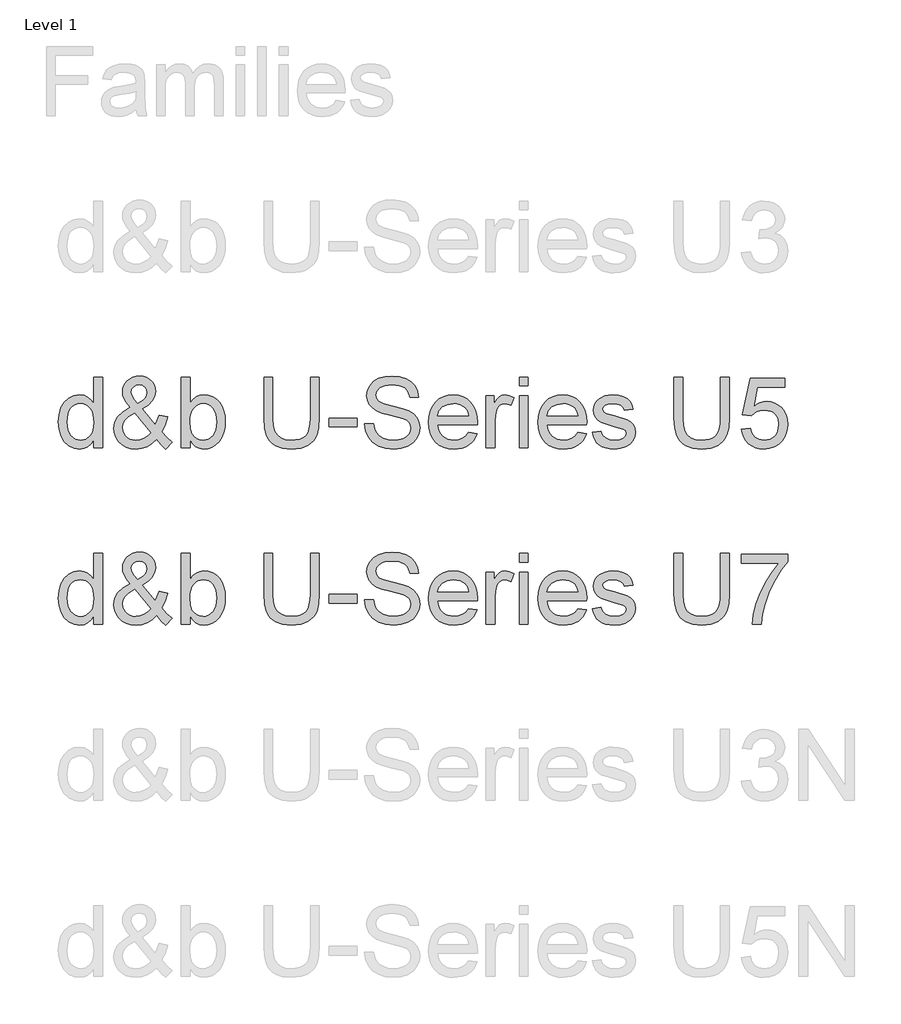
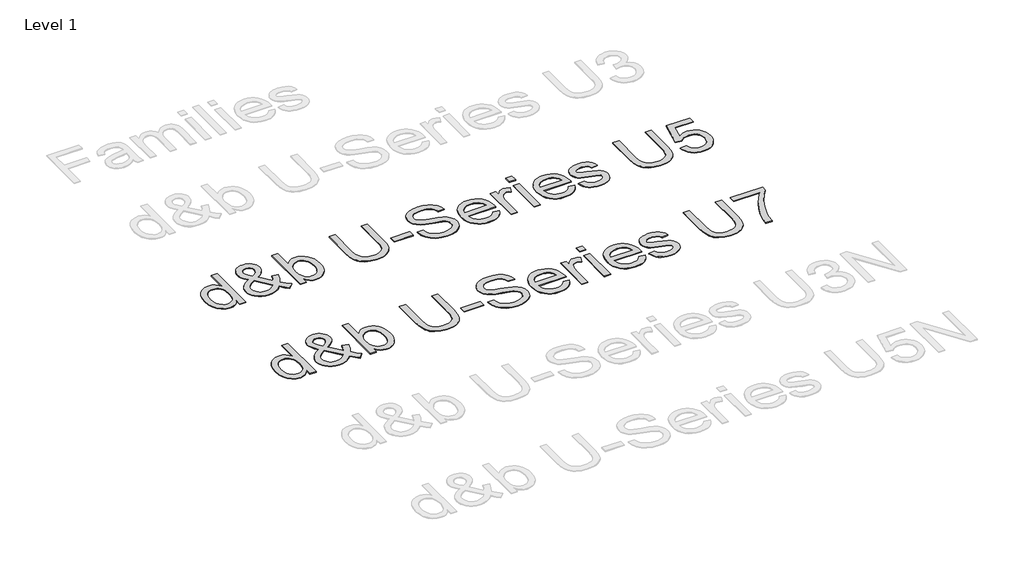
# One storey, part 23 of 29: 2 proxies.
"""IFC4 building model written with IfcOpenShell, lengths in millimetres."""

from ifc_helpers import new_model, si_unit, origin, origin_with_axes, place, context, project, spatial, polyline, outline, extrude, element, save

model = new_model("IFC4")

# Units and contexts
model_context = context("Model", 3, world=origin())
ifc_project = project(units=[si_unit("LENGTHUNIT", "METRE", prefix="MILLI")], contexts=[model_context])

# Site, building, storey
site = spatial("IfcSite", under=ifc_project)
building = spatial("IfcBuilding", under=site)
storey = spatial("IfcBuildingStorey", under=building, Name="Level 1", Elevation=0.0)

# Proxies
placement = place(None, origin())
element("IfcBuildingElementProxy", 1, Name="400mm Arial", ObjectType="400mm Arial", at=placement, inside=storey, context=model_context, shape_type="SweptSolid", body=[
    extrude(outline(polyline([(-20788.4119982, 15464.3636615), (-20788.4119982, 15511.7468625), (-20803.4399777, 15488.2698598), (-20821.6440051, 15471.5005722), (-20843.0240804, 15461.4389996), (-20867.5802036, 15458.0851421), (-20900.051921, 15462.9411844), (-20929.7767862, 15477.5093115), (-20954.9399147, 15500.7717163), (-20973.7264219, 15531.7105921), (-20985.4250694, 15569.0751401), (-20989.3246185, 15611.6145614), (-20985.7316377, 15653.6266853), (-20974.9526952, 15691.5675817), (-20957.0000539, 15723.2790097), (-20931.8859763, 15746.6027282), (-20901.5111863, 15760.950126), (-20867.7764073, 15765.7325919), (-20843.20189, 15762.3112894), (-20821.4723268, 15752.0473817), (-20803.0537016, 15736.3142951), (-20788.4119982, 15716.4854555), (-20788.4119982, 15866.1889021), (-20738.1838431, 15866.1889021), (-20738.1838431, 15464.3636615), (-20788.4119982, 15464.3636615)]), holes=[polyline([(-20939.0964634, 15611.8107652), (-20937.6801177, 15587.4539114), (-20933.4310807, 15566.3773388), (-20926.3493523, 15548.5810472), (-20916.4349325, 15534.0650368), (-20891.7377879, 15514.7512321), (-20877.8625053, 15509.9227809), (-20862.9694159, 15508.3132972), (-20848.0058157, 15509.8492045), (-20834.2133066, 15514.4569265), (-20810.1415614, 15532.8878145), (-20800.6348775, 15546.7968196), (-20793.844389, 15563.9493176), (-20788.4119982, 15607.9847924), (-20793.9424909, 15656.1282828), (-20800.8556067, 15674.663404), (-20810.5339688, 15689.5074425), (-20822.235682, 15700.8811276), (-20835.2188507, 15709.0051883), (-20849.4834751, 15713.8796247), (-20865.0295551, 15715.5044369), (-20880.2169501, 15713.9440041), (-20894.0922327, 15709.2627057), (-20906.6554028, 15701.4605417), (-20917.9064605, 15690.5375121), (-20927.1770868, 15676.2544937), (-20933.7989627, 15658.372363), (-20939.0964634, 15611.8107652)])]), origin_with_axes(), (0.0, 0.0, 1.0), 5.0),
    extrude(outline(polyline([(-20432.4003287, 15514.0032054), (-20457.9313392, 15489.5390527), (-20485.6696416, 15472.0646579), (-20515.664287, 15461.5800211), (-20547.9643262, 15458.0851421), (-20577.2722584, 15460.6725788), (-20603.3918801, 15468.4348889), (-20626.3231911, 15481.3720724), (-20646.0661915, 15499.4841293), (-20658.8991418, 15516.8542908), (-20668.0655348, 15535.2177338), (-20673.5653707, 15554.5744581), (-20675.3986493, 15574.9244638), (-20669.5002746, 15610.118508), (-20651.8051507, 15641.7318341), (-20622.3868538, 15669.7399167), (-20581.3189604, 15694.1182302), (-20603.2324646, 15722.4696693), (-20616.3903773, 15744.9349965), (-20622.975465, 15764.1139112), (-20625.1704942, 15782.6061128), (-20623.4414488, 15800.1602153), (-20618.2543127, 15816.5248327), (-20609.6090858, 15831.699965), (-20597.5057682, 15845.6856122), (-20582.784357, 15857.4026538), (-20566.2848495, 15865.7719692), (-20548.0072457, 15870.7935584), (-20527.9515456, 15872.4674215), (-20508.8032878, 15870.8671348), (-20491.4821772, 15866.0662748), (-20475.9882138, 15858.0648414), (-20462.3213977, 15846.8628346), (-20451.1623105, 15833.4167477), (-20443.1915339, 15818.6830738), (-20438.409068, 15802.6618129), (-20436.8149127, 15785.352965), (-20441.5360649, 15757.3694079), (-20455.6995218, 15731.4950409), (-20479.3052831, 15707.729864), (-20512.353349, 15686.0738773), (-20439.6598668, 15595.5258555), (-20427.2745063, 15621.4002225), (-20417.9793545, 15651.1496132), (-20367.7511994, 15640.2603061), (-20383.2022432, 15593.7354965), (-20403.2640747, 15557.5604336), (-20374.7164319, 15524.2548503), (-20342.6371219, 15496.7372771), (-20380.3082382, 15458.0851421), (-20405.9373505, 15481.5314879), (-20432.4003287, 15514.0032054)]), holes=[polyline([(-20537.7617322, 15717.7607798), (-20511.4949577, 15734.4258341), (-20496.4608468, 15748.908122), (-20489.3975125, 15762.9980024), (-20487.0430678, 15778.4858344), (-20490.1455392, 15796.0338056), (-20499.4529537, 15810.0255842), (-20513.4202068, 15819.1858458), (-20530.5021941, 15822.2392664), (-20547.9520634, 15819.2103713), (-20562.2381476, 15810.123686), (-20571.7662912, 15796.6714677), (-20574.9423391, 15780.5459736), (-20570.6258571, 15762.1518739), (-20557.578309, 15741.6976349), (-20537.7617322, 15717.7607798)]), polyline([(-20466.0492686, 15550.2027937), (-20555.7143735, 15662.1370221), (-20589.9641873, 15640.2848316), (-20610.8966728, 15620.0513218), (-20621.6020389, 15600.7252544), (-20625.1704942, 15581.5953906), (-20620.2899264, 15557.9037901), (-20605.648223, 15533.3292729), (-20594.8692805, 15522.3847835), (-20582.0547244, 15514.5672911), (-20567.2045545, 15509.8767957), (-20550.3187709, 15508.3132972), (-20527.5959264, 15511.2318277), (-20504.1618433, 15519.9874192), (-20482.7388484, 15533.3783238), (-20466.0492686, 15550.2027937)])]), origin_with_axes(), (0.0, 0.0, 1.0), 5.0),
    extrude(outline(polyline([(-20242.1808118, 15464.3636615), (-20292.4089668, 15464.3636615), (-20292.4089668, 15866.1889021), (-20242.1808118, 15866.1889021), (-20242.1808118, 15717.1721686), (-20225.6629102, 15738.4173538), (-20207.011293, 15753.5924861), (-20186.2259603, 15762.6975655), (-20163.306912, 15765.7325919), (-20137.432545, 15762.9980024), (-20112.9806551, 15754.7942339), (-20091.3491937, 15741.6363213), (-20073.9361126, 15724.0392992), (-20060.2876906, 15702.1748459), (-20049.9502065, 15676.2146398), (-20043.4386952, 15647.2378013), (-20041.2681915, 15616.323451), (-20043.5153373, 15580.6511602), (-20050.2567749, 15549.270826), (-20061.4925041, 15522.1824484), (-20077.2225251, 15499.3860274), (-20096.1040685, 15481.3168901), (-20116.7943651, 15468.4103634), (-20139.2934148, 15460.6664474), (-20163.6012176, 15458.0851421), (-20187.274424, 15461.4144742), (-20208.2620918, 15471.4024703), (-20226.5642211, 15488.0491306), (-20242.1808118, 15511.354455), (-20242.1808118, 15464.3636615)]), holes=[polyline([(-20242.1808118, 15613.9690062), (-20238.7472465, 15572.0795097), (-20228.4465506, 15543.7280706), (-20216.2757879, 15528.2341072), (-20202.1307252, 15517.1669905), (-20186.0113625, 15510.5267205), (-20167.9176997, 15508.3132972), (-20152.8958515, 15509.9442407), (-20138.9285984, 15514.8370712), (-20126.0159404, 15522.9917888), (-20114.1578774, 15534.4083934), (-20104.2434577, 15549.0562281), (-20097.1617293, 15566.9046363), (-20092.9126922, 15587.9536178), (-20091.4963465, 15612.2031726), (-20096.9287373, 15658.1638965), (-20103.7192258, 15675.9571224), (-20113.2259097, 15690.2922575), (-20124.6578427, 15701.322586), (-20137.2240785, 15709.201392), (-20150.9246172, 15713.9286757), (-20165.7594586, 15715.5044369), (-20180.7813068, 15713.8734934), (-20194.7485599, 15708.9806628), (-20207.6612179, 15700.8259453), (-20219.5192809, 15689.4093407), (-20229.4337006, 15674.9086587), (-20236.515429, 15657.501709), (-20240.7644661, 15637.1884915), (-20242.1808118, 15613.9690062)])]), origin_with_axes(), (0.0, 0.0, 1.0), 5.0),
    extrude(outline(polyline([(-19557.8221989, 15866.1889021), (-19507.5940438, 15866.1889021), (-19507.5940438, 15634.3741942), (-19511.0030836, 15580.0870744), (-19521.2302031, 15538.2834171), (-19529.4155775, 15521.3301884), (-19540.3355414, 15506.0324288), (-19570.3792376, 15480.4033165), (-19589.5213641, 15470.6391152), (-19611.4348683, 15463.6646857), (-19663.5760097, 15458.0851421), (-19714.576717, 15462.9411844), (-19755.3503048, 15477.5093115), (-19771.9049946, 15488.3097137), (-19785.9090359, 15501.2867511), (-19797.3624287, 15516.4404236), (-19806.2651729, 15533.7707312), (-19817.706303, 15577.3402222), (-19821.520013, 15634.3741942), (-19821.520013, 15866.1889021), (-19771.2918579, 15866.1889021), (-19771.2918579, 15636.1400278), (-19768.8147858, 15591.000907), (-19761.3835695, 15559.5715218), (-19747.9190885, 15537.8051705), (-19727.3422222, 15521.6551509), (-19700.5113621, 15511.6487606), (-19668.2848993, 15508.3132972), (-19640.6017791, 15509.9626348), (-19617.1983529, 15514.9106476), (-19598.0746205, 15523.1573357), (-19583.230582, 15534.702699), (-19572.1144144, 15550.9385577), (-19564.1742947, 15573.2567321), (-19559.4102228, 15601.6572221), (-19557.8221989, 15636.1400278), (-19557.8221989, 15866.1889021)])), origin_with_axes(), (0.0, 0.0, 1.0), 5.0),
    extrude(outline(polyline([(-19451.0873693, 15583.6555298), (-19451.0873693, 15633.8836849), (-19294.1243847, 15633.8836849), (-19294.1243847, 15583.6555298), (-19451.0873693, 15583.6555298)])), origin_with_axes(), (0.0, 0.0, 1.0), 5.0),
    extrude(outline(polyline([(-19250.174749, 15602.4910879), (-19199.946594, 15602.4910879), (-19194.1831094, 15574.6178954), (-19183.7597862, 15552.2138819), (-19167.499402, 15534.4329188), (-19144.2247344, 15520.4288776), (-19115.7751935, 15511.3421923), (-19083.9901891, 15508.3132972), (-19056.006632, 15510.6064283), (-19031.5056911, 15517.4858216), (-19011.6523261, 15528.3751287), (-18997.6114966, 15542.698001), (-18989.2605753, 15559.1423262), (-18986.4769349, 15576.3959918), (-18988.5615995, 15593.2081989), (-18994.8155934, 15607.7395377), (-19007.519785, 15620.137161), (-19028.9550426, 15630.5482214), (-19102.0899832, 15649.7271361), (-19150.0985836, 15662.419065), (-19180.8167302, 15674.4978571), (-19205.8204431, 15691.3959034), (-19223.5400926, 15711.8746678), (-19234.0983058, 15735.4926919), (-19237.6177103, 15761.8085173), (-19233.26444, 15791.2268142), (-19220.2046292, 15818.6585483), (-19198.7816343, 15841.9086904), (-19169.338812, 15858.7822113), (-19133.997615, 15869.0461189), (-19094.8794961, 15872.4674215), (-19052.4994903, 15868.8867034), (-19015.4169852, 15858.1445491), (-18984.956356, 15840.4616879), (-18962.4419779, 15816.0588489), (-18948.1926819, 15786.456611), (-18942.5272992, 15753.1755532), (-18992.7554543, 15753.1755532), (-19001.9770296, 15783.145673), (-19010.3402136, 15795.003736), (-19021.2049952, 15804.7771344), (-19051.2486915, 15817.8737334), (-19092.9174588, 15822.2392664), (-19135.5672448, 15817.9227843), (-19151.8705486, 15812.5271817), (-19164.8261262, 15804.9733381), (-19181.7486979, 15785.9170507), (-19187.3895552, 15763.2800453), (-19183.3919042, 15743.9785033), (-19171.3989511, 15728.4538831), (-19143.047512, 15714.5724691), (-19089.3857917, 15700.3967496), (-19034.0072887, 15686.9322686), (-19000.5055016, 15675.1845702), (-18971.8720197, 15656.9621487), (-18951.8960273, 15634.4722961), (-18940.1605917, 15607.9602669), (-18936.2487798, 15577.671316), (-18940.7492029, 15546.7079147), (-18954.2504721, 15517.5839235), (-18976.2007645, 15492.5188969), (-19006.048257, 15473.7323896), (-19041.941277, 15461.996954), (-19082.0281518, 15458.0851421), (-19131.2385, 15462.3035223), (-19171.7423077, 15474.958663), (-19204.0055586, 15496.0996149), (-19228.4942368, 15525.7754292), (-19244.2150607, 15561.9259666), (-19250.174749, 15602.4910879)])), origin_with_axes(), (0.0, 0.0, 1.0), 5.0),
    extrude(outline(polyline([(-18660.5825381, 15552.2629329), (-18611.3354017, 15545.9844135), (-18618.8861796, 15526.2598072), (-18629.0795766, 15508.8773829), (-18641.9155925, 15493.8371407), (-18657.3942275, 15481.1390805), (-18675.3560659, 15471.0529824), (-18695.6416922, 15463.8486267), (-18743.1843087, 15458.0851421), (-18774.3500451, 15460.5714113), (-18802.1190044, 15468.0302187), (-18826.4911866, 15480.4615645), (-18847.4665916, 15497.8654485), (-18864.3339811, 15519.7574929), (-18876.3821165, 15545.6533197), (-18883.6109977, 15575.5529288), (-18886.0206247, 15609.4563204), (-18883.5864722, 15644.5093432), (-18876.2840146, 15675.4052994), (-18864.1132519, 15702.1441891), (-18847.0741842, 15724.7260122), (-18826.1539614, 15742.6663908), (-18802.3397336, 15755.480947), (-18775.6315007, 15763.1696807), (-18746.0292628, 15765.7325919), (-18717.3804525, 15763.1758121), (-18691.472363, 15755.5054725), (-18668.3049943, 15742.7215731), (-18647.8783465, 15724.8241141), (-18631.2040951, 15702.2913419), (-18619.2939155, 15675.6015031), (-18612.1478077, 15644.7545978), (-18609.7657718, 15609.750626), (-18610.0600774, 15596.2125686), (-18835.7924697, 15596.2125686), (-18832.8831362, 15576.1691312), (-18827.0981918, 15558.6150287), (-18818.4376365, 15543.550261), (-18806.9014703, 15530.9748281), (-18793.1273553, 15521.0604083), (-18777.7529536, 15513.9786799), (-18742.2032901, 15508.3132972), (-18715.4705318, 15510.9375221), (-18692.9561537, 15518.8101968), (-18674.6601558, 15532.4218306), (-18660.5825381, 15552.2629329)]), holes=[polyline([(-18835.7924697, 15646.4407236), (-18659.9939269, 15646.4407236), (-18666.7874811, 15672.9772782), (-18680.1048093, 15691.9599892), (-18693.8022823, 15702.260685), (-18709.3882161, 15709.6183249), (-18726.8626109, 15714.0329089), (-18746.2254666, 15715.5044369), (-18780.0828729, 15710.8078101), (-18808.0786927, 15696.7179296), (-18827.5396502, 15674.7553745), (-18835.7924697, 15646.4407236)])]), origin_with_axes(), (0.0, 0.0, 1.0), 5.0),
    extrude(outline(polyline([(-18559.5376168, 15464.3636615), (-18559.5376168, 15759.4540726), (-18515.5879811, 15759.4540726), (-18515.5879811, 15715.7987425), (-18499.3521223, 15741.1090237), (-18484.3915879, 15756.0205073), (-18469.3820025, 15763.3045708), (-18452.998991, 15765.7325919), (-18427.9830153, 15761.8575683), (-18402.5746321, 15750.2324972), (-18419.3500511, 15705.203741), (-18437.0083869, 15712.9292629), (-18454.6667227, 15715.5044369), (-18469.6640453, 15713.0273648), (-18483.0672127, 15705.5961485), (-18493.8952061, 15693.7748737), (-18501.1670069, 15678.1276262), (-18507.273848, 15650.0704927), (-18509.3094617, 15619.4627107), (-18509.3094617, 15464.3636615), (-18559.5376168, 15464.3636615)])), origin_with_axes(), (0.0, 0.0, 1.0), 5.0),
    extrude(outline(polyline([(-18371.1820352, 15815.960747), (-18371.1820352, 15866.1889021), (-18320.9538802, 15866.1889021), (-18320.9538802, 15815.960747), (-18371.1820352, 15815.960747)])), origin_with_axes(), (0.0, 0.0, 1.0), 5.0),
    extrude(outline(polyline([(-18371.1820352, 15464.3636615), (-18371.1820352, 15759.4540726), (-18320.9538802, 15759.4540726), (-18320.9538802, 15464.3636615), (-18371.1820352, 15464.3636615)])), origin_with_axes(), (0.0, 0.0, 1.0), 5.0),
    extrude(outline(polyline([(-18039.009119, 15552.2629329), (-17989.7619826, 15545.9844135), (-17997.3127606, 15526.2598072), (-18007.5061575, 15508.8773829), (-18020.3421735, 15493.8371407), (-18035.8208084, 15481.1390805), (-18053.7826468, 15471.0529824), (-18074.0682732, 15463.8486267), (-18121.6108897, 15458.0851421), (-18152.7766261, 15460.5714113), (-18180.5455853, 15468.0302187), (-18204.9177675, 15480.4615645), (-18225.8931726, 15497.8654485), (-18242.7605621, 15519.7574929), (-18254.8086974, 15545.6533197), (-18262.0375786, 15575.5529288), (-18264.4472057, 15609.4563204), (-18262.0130532, 15644.5093432), (-18254.7105956, 15675.4052994), (-18242.5398329, 15702.1441891), (-18225.5007651, 15724.7260122), (-18204.5805423, 15742.6663908), (-18180.7663145, 15755.480947), (-18154.0580817, 15763.1696807), (-18124.4558438, 15765.7325919), (-18095.8070334, 15763.1758121), (-18069.8989439, 15755.5054725), (-18046.7315753, 15742.7215731), (-18026.3049275, 15724.8241141), (-18009.630676, 15702.2913419), (-17997.7204965, 15675.6015031), (-17990.5743887, 15644.7545978), (-17988.1923528, 15609.750626), (-17988.4866584, 15596.2125686), (-18214.2190506, 15596.2125686), (-18211.3097172, 15576.1691312), (-18205.5247728, 15558.6150287), (-18196.8642175, 15543.550261), (-18185.3280513, 15530.9748281), (-18171.5539362, 15521.0604083), (-18156.1795345, 15513.9786799), (-18120.629871, 15508.3132972), (-18093.8971127, 15510.9375221), (-18071.3827346, 15518.8101968), (-18053.0867367, 15532.4218306), (-18039.009119, 15552.2629329)]), holes=[polyline([(-18214.2190506, 15646.4407236), (-18038.4205079, 15646.4407236), (-18045.214062, 15672.9772782), (-18058.5313903, 15691.9599892), (-18072.2288632, 15702.260685), (-18087.8147971, 15709.6183249), (-18105.2891918, 15714.0329089), (-18124.6520475, 15715.5044369), (-18158.5094538, 15710.8078101), (-18186.5052736, 15696.7179296), (-18205.9662312, 15674.7553745), (-18214.2190506, 15646.4407236)])]), origin_with_axes(), (0.0, 0.0, 1.0), 5.0),
    extrude(outline(polyline([(-17956.7997559, 15552.2629329), (-17906.5716008, 15558.5414523), (-17898.6498752, 15537.0571437), (-17883.3214587, 15521.2627434), (-17860.4882495, 15511.5506587), (-17830.0521458, 15508.3132972), (-17799.983924, 15511.2808786), (-17778.8429721, 15520.1836229), (-17766.3349842, 15533.0840182), (-17762.1656549, 15548.0445527), (-17766.3595097, 15560.8468461), (-17778.9410739, 15570.6079817), (-17830.640757, 15584.930854), (-17906.2772952, 15609.5053713), (-17925.4194217, 15621.8539436), (-17939.2885729, 15638.2001669), (-17947.7130706, 15657.501709), (-17950.5212365, 15678.7162373), (-17948.2648936, 15698.1771949), (-17941.4958649, 15716.142099), (-17930.827287, 15731.8997111), (-17916.8722966, 15744.7387927), (-17884.9401395, 15759.6012254), (-17864.0567049, 15764.1997503), (-17841.7262678, 15765.7325919), (-17809.0338211, 15763.2677826), (-17780.6088056, 15755.8733545), (-17757.751071, 15744.2728089), (-17741.7604669, 15729.1896471), (-17731.1654655, 15709.5079603), (-17724.4945386, 15684.1118399), (-17774.7226937, 15677.8333206), (-17781.0625268, 15693.6399836), (-17793.6073028, 15705.5470975), (-17812.4796492, 15713.015102), (-17837.8021932, 15715.5044369), (-17866.6441416, 15713.1254666), (-17885.8721072, 15705.9885559), (-17896.6878378, 15695.6878601), (-17900.2930814, 15683.8175343), (-17894.3088676, 15669.2003564), (-17875.5714113, 15658.1148456), (-17832.3084887, 15647.4217423), (-17758.5849369, 15623.7791927), (-17739.1117166, 15612.4729527), (-17724.3473858, 15596.9973835), (-17715.0399714, 15577.303434), (-17711.9374999, 15553.3420534), (-17715.5795316, 15528.5713324), (-17726.5056269, 15505.2721394), (-17744.2988527, 15485.2716215), (-17768.5422762, 15470.3969262), (-17797.825683, 15461.1630881), (-17830.7388588, 15458.0851421), (-17857.7720541, 15459.5689328), (-17881.3839468, 15464.020305), (-17901.574537, 15471.4392585), (-17918.3438246, 15481.8257935), (-17932.0412976, 15495.130859), (-17943.0164438, 15511.3054041), (-17951.2692632, 15530.3494287), (-17956.7997559, 15552.2629329)])), origin_with_axes(), (0.0, 0.0, 1.0), 5.0),
    extrude(outline(polyline([(-17228.4915073, 15866.1889021), (-17178.2633522, 15866.1889021), (-17178.2633522, 15634.3741942), (-17181.672392, 15580.0870744), (-17191.8995115, 15538.2834171), (-17200.0848859, 15521.3301884), (-17211.0048498, 15506.0324288), (-17241.048546, 15480.4033165), (-17260.1906725, 15470.6391152), (-17282.1041767, 15463.6646857), (-17334.2453182, 15458.0851421), (-17385.2460254, 15462.9411844), (-17426.0196132, 15477.5093115), (-17442.574303, 15488.3097137), (-17456.5783443, 15501.2867511), (-17468.0317371, 15516.4404236), (-17476.9344814, 15533.7707312), (-17488.3756114, 15577.3402222), (-17492.1893214, 15634.3741942), (-17492.1893214, 15866.1889021), (-17441.9611663, 15866.1889021), (-17441.9611663, 15636.1400278), (-17439.4840942, 15591.000907), (-17432.0528779, 15559.5715218), (-17418.5883969, 15537.8051705), (-17398.0115307, 15521.6551509), (-17371.1806705, 15511.6487606), (-17338.9542077, 15508.3132972), (-17311.2710876, 15509.9626348), (-17287.8676613, 15514.9106476), (-17268.7439289, 15523.1573357), (-17253.8998904, 15534.702699), (-17242.7837228, 15550.9385577), (-17234.8436031, 15573.2567321), (-17230.0795312, 15601.6572221), (-17228.4915073, 15636.1400278), (-17228.4915073, 15866.1889021)])), origin_with_axes(), (0.0, 0.0, 1.0), 5.0),
    extrude(outline(polyline([(-17109.199639, 15571.098491), (-17058.9714839, 15577.3770104), (-17049.7499086, 15547.2229495), (-17033.6612026, 15525.6282764), (-17010.7789425, 15512.642042), (-16981.1767046, 15508.3132972), (-16962.0468409, 15509.8185477), (-16945.1733201, 15514.3342992), (-16930.5561421, 15521.8605517), (-16918.1953071, 15532.3973051), (-16908.3667264, 15545.4233934), (-16901.3463117, 15560.4176504), (-16895.7299799, 15596.3106704), (-16900.9906924, 15630.1067631), (-16907.5665831, 15644.0249652), (-16916.77283, 15655.9566046), (-16928.6400901, 15665.5276678), (-16943.19902, 15672.3641416), (-16980.3918897, 15677.8333206), (-17004.7579405, 15675.6505541), (-17024.4886782, 15669.1022545), (-17040.2462903, 15659.0713388), (-17052.6929645, 15646.4407236), (-17102.9211196, 15652.719243), (-17058.9714839, 15859.9103827), (-16864.337383, 15859.9103827), (-16864.337383, 15809.6822276), (-17018.3573116, 15809.6822276), (-17039.939722, 15699.0233235), (-17022.2139412, 15711.727515), (-17004.0589647, 15720.8019376), (-16985.4747926, 15726.2465911), (-16966.4614248, 15728.0614756), (-16941.9972722, 15725.8112641), (-16919.5196823, 15719.0606295), (-16899.0286551, 15707.8095718), (-16880.5241908, 15692.058091), (-16865.2019057, 15672.7688118), (-16854.2574163, 15650.9043585), (-16847.6907227, 15626.4647313), (-16845.5018248, 15599.4499301), (-16847.4699935, 15573.4284103), (-16853.3744995, 15549.221775), (-16863.2153429, 15526.8300243), (-16876.9925236, 15506.253158), (-16897.8636955, 15485.1796511), (-16922.2174836, 15470.1271461), (-16950.0538879, 15461.0956431), (-16981.3729084, 15458.0851421), (-17007.2932606, 15460.0195883), (-17030.7058839, 15465.8229267), (-17051.6107783, 15475.4951575), (-17070.0079438, 15489.0362806), (-17085.3149004, 15505.7718457), (-17096.9491685, 15525.0274025), (-17104.910748, 15546.8029509), (-17109.199639, 15571.098491)])), origin_with_axes(), (0.0, 0.0, 1.0), 5.0),
])
element("IfcBuildingElementProxy", 2, Name="400mm Arial", ObjectType="400mm Arial", at=placement, inside=storey, context=model_context, shape_type="SweptSolid", body=[
    extrude(outline(polyline([(-20788.4119982, 14464.3636615), (-20788.4119982, 14511.7468625), (-20803.4399777, 14488.2698598), (-20821.6440051, 14471.5005722), (-20843.0240804, 14461.4389996), (-20867.5802036, 14458.0851421), (-20900.051921, 14462.9411844), (-20929.7767862, 14477.5093115), (-20954.9399147, 14500.7717163), (-20973.7264219, 14531.7105921), (-20985.4250694, 14569.0751401), (-20989.3246185, 14611.6145614), (-20985.7316377, 14653.6266853), (-20974.9526952, 14691.5675817), (-20957.0000539, 14723.2790097), (-20931.8859763, 14746.6027282), (-20901.5111863, 14760.950126), (-20867.7764073, 14765.7325919), (-20843.20189, 14762.3112894), (-20821.4723268, 14752.0473817), (-20803.0537016, 14736.3142951), (-20788.4119982, 14716.4854555), (-20788.4119982, 14866.1889021), (-20738.1838431, 14866.1889021), (-20738.1838431, 14464.3636615), (-20788.4119982, 14464.3636615)]), holes=[polyline([(-20939.0964634, 14611.8107652), (-20937.6801177, 14587.4539114), (-20933.4310807, 14566.3773388), (-20926.3493523, 14548.5810472), (-20916.4349325, 14534.0650368), (-20891.7377879, 14514.7512321), (-20877.8625053, 14509.9227809), (-20862.9694159, 14508.3132972), (-20848.0058157, 14509.8492045), (-20834.2133066, 14514.4569265), (-20810.1415614, 14532.8878145), (-20800.6348775, 14546.7968196), (-20793.844389, 14563.9493176), (-20788.4119982, 14607.9847924), (-20793.9424909, 14656.1282828), (-20800.8556067, 14674.663404), (-20810.5339688, 14689.5074425), (-20822.235682, 14700.8811276), (-20835.2188507, 14709.0051883), (-20849.4834751, 14713.8796247), (-20865.0295551, 14715.5044369), (-20880.2169501, 14713.9440041), (-20894.0922327, 14709.2627057), (-20906.6554028, 14701.4605417), (-20917.9064605, 14690.5375121), (-20927.1770868, 14676.2544937), (-20933.7989627, 14658.372363), (-20939.0964634, 14611.8107652)])]), origin_with_axes(), (0.0, 0.0, 1.0), 5.0),
    extrude(outline(polyline([(-20432.4003287, 14514.0032054), (-20457.9313392, 14489.5390527), (-20485.6696416, 14472.0646579), (-20515.664287, 14461.5800211), (-20547.9643262, 14458.0851421), (-20577.2722584, 14460.6725788), (-20603.3918801, 14468.4348889), (-20626.3231911, 14481.3720724), (-20646.0661915, 14499.4841293), (-20658.8991418, 14516.8542908), (-20668.0655348, 14535.2177338), (-20673.5653707, 14554.5744581), (-20675.3986493, 14574.9244638), (-20669.5002746, 14610.118508), (-20651.8051507, 14641.7318341), (-20622.3868538, 14669.7399167), (-20581.3189604, 14694.1182302), (-20603.2324646, 14722.4696693), (-20616.3903773, 14744.9349965), (-20622.975465, 14764.1139112), (-20625.1704942, 14782.6061128), (-20623.4414488, 14800.1602153), (-20618.2543127, 14816.5248327), (-20609.6090858, 14831.699965), (-20597.5057682, 14845.6856122), (-20582.784357, 14857.4026538), (-20566.2848495, 14865.7719692), (-20548.0072457, 14870.7935584), (-20527.9515456, 14872.4674215), (-20508.8032878, 14870.8671348), (-20491.4821772, 14866.0662748), (-20475.9882138, 14858.0648414), (-20462.3213977, 14846.8628346), (-20451.1623105, 14833.4167477), (-20443.1915339, 14818.6830738), (-20438.409068, 14802.6618129), (-20436.8149127, 14785.352965), (-20441.5360649, 14757.3694079), (-20455.6995218, 14731.4950409), (-20479.3052831, 14707.729864), (-20512.353349, 14686.0738773), (-20439.6598668, 14595.5258555), (-20427.2745063, 14621.4002225), (-20417.9793545, 14651.1496132), (-20367.7511994, 14640.2603061), (-20383.2022432, 14593.7354965), (-20403.2640747, 14557.5604336), (-20374.7164319, 14524.2548503), (-20342.6371219, 14496.7372771), (-20380.3082382, 14458.0851421), (-20405.9373505, 14481.5314879), (-20432.4003287, 14514.0032054)]), holes=[polyline([(-20537.7617322, 14717.7607798), (-20511.4949577, 14734.4258341), (-20496.4608468, 14748.908122), (-20489.3975125, 14762.9980024), (-20487.0430678, 14778.4858344), (-20490.1455392, 14796.0338056), (-20499.4529537, 14810.0255842), (-20513.4202068, 14819.1858458), (-20530.5021941, 14822.2392664), (-20547.9520634, 14819.2103713), (-20562.2381476, 14810.123686), (-20571.7662912, 14796.6714677), (-20574.9423391, 14780.5459736), (-20570.6258571, 14762.1518739), (-20557.578309, 14741.6976349), (-20537.7617322, 14717.7607798)]), polyline([(-20466.0492686, 14550.2027937), (-20555.7143735, 14662.1370221), (-20589.9641873, 14640.2848316), (-20610.8966728, 14620.0513218), (-20621.6020389, 14600.7252544), (-20625.1704942, 14581.5953906), (-20620.2899264, 14557.9037901), (-20605.648223, 14533.3292729), (-20594.8692805, 14522.3847835), (-20582.0547244, 14514.5672911), (-20567.2045545, 14509.8767957), (-20550.3187709, 14508.3132972), (-20527.5959264, 14511.2318277), (-20504.1618433, 14519.9874192), (-20482.7388484, 14533.3783238), (-20466.0492686, 14550.2027937)])]), origin_with_axes(), (0.0, 0.0, 1.0), 5.0),
    extrude(outline(polyline([(-20242.1808118, 14464.3636615), (-20292.4089668, 14464.3636615), (-20292.4089668, 14866.1889021), (-20242.1808118, 14866.1889021), (-20242.1808118, 14717.1721686), (-20225.6629102, 14738.4173538), (-20207.011293, 14753.5924861), (-20186.2259603, 14762.6975655), (-20163.306912, 14765.7325919), (-20137.432545, 14762.9980024), (-20112.9806551, 14754.7942339), (-20091.3491937, 14741.6363213), (-20073.9361126, 14724.0392992), (-20060.2876906, 14702.1748459), (-20049.9502065, 14676.2146398), (-20043.4386952, 14647.2378013), (-20041.2681915, 14616.323451), (-20043.5153373, 14580.6511602), (-20050.2567749, 14549.270826), (-20061.4925041, 14522.1824484), (-20077.2225251, 14499.3860274), (-20096.1040685, 14481.3168901), (-20116.7943651, 14468.4103634), (-20139.2934148, 14460.6664474), (-20163.6012176, 14458.0851421), (-20187.274424, 14461.4144742), (-20208.2620918, 14471.4024703), (-20226.5642211, 14488.0491306), (-20242.1808118, 14511.354455), (-20242.1808118, 14464.3636615)]), holes=[polyline([(-20242.1808118, 14613.9690062), (-20238.7472465, 14572.0795097), (-20228.4465506, 14543.7280706), (-20216.2757879, 14528.2341072), (-20202.1307252, 14517.1669905), (-20186.0113625, 14510.5267205), (-20167.9176997, 14508.3132972), (-20152.8958515, 14509.9442407), (-20138.9285984, 14514.8370712), (-20126.0159404, 14522.9917888), (-20114.1578774, 14534.4083934), (-20104.2434577, 14549.0562281), (-20097.1617293, 14566.9046363), (-20092.9126922, 14587.9536178), (-20091.4963465, 14612.2031726), (-20096.9287373, 14658.1638965), (-20103.7192258, 14675.9571224), (-20113.2259097, 14690.2922575), (-20124.6578427, 14701.322586), (-20137.2240785, 14709.201392), (-20150.9246172, 14713.9286757), (-20165.7594586, 14715.5044369), (-20180.7813068, 14713.8734934), (-20194.7485599, 14708.9806628), (-20207.6612179, 14700.8259453), (-20219.5192809, 14689.4093407), (-20229.4337006, 14674.9086587), (-20236.515429, 14657.501709), (-20240.7644661, 14637.1884915), (-20242.1808118, 14613.9690062)])]), origin_with_axes(), (0.0, 0.0, 1.0), 5.0),
    extrude(outline(polyline([(-19557.8221989, 14866.1889021), (-19507.5940438, 14866.1889021), (-19507.5940438, 14634.3741942), (-19511.0030836, 14580.0870744), (-19521.2302031, 14538.2834171), (-19529.4155775, 14521.3301884), (-19540.3355414, 14506.0324288), (-19570.3792376, 14480.4033165), (-19589.5213641, 14470.6391152), (-19611.4348683, 14463.6646857), (-19663.5760097, 14458.0851421), (-19714.576717, 14462.9411844), (-19755.3503048, 14477.5093115), (-19771.9049946, 14488.3097137), (-19785.9090359, 14501.2867511), (-19797.3624287, 14516.4404236), (-19806.2651729, 14533.7707312), (-19817.706303, 14577.3402222), (-19821.520013, 14634.3741942), (-19821.520013, 14866.1889021), (-19771.2918579, 14866.1889021), (-19771.2918579, 14636.1400278), (-19768.8147858, 14591.000907), (-19761.3835695, 14559.5715218), (-19747.9190885, 14537.8051705), (-19727.3422222, 14521.6551509), (-19700.5113621, 14511.6487606), (-19668.2848993, 14508.3132972), (-19640.6017791, 14509.9626348), (-19617.1983529, 14514.9106476), (-19598.0746205, 14523.1573357), (-19583.230582, 14534.702699), (-19572.1144144, 14550.9385577), (-19564.1742947, 14573.2567321), (-19559.4102228, 14601.6572221), (-19557.8221989, 14636.1400278), (-19557.8221989, 14866.1889021)])), origin_with_axes(), (0.0, 0.0, 1.0), 5.0),
    extrude(outline(polyline([(-19451.0873693, 14583.6555298), (-19451.0873693, 14633.8836849), (-19294.1243847, 14633.8836849), (-19294.1243847, 14583.6555298), (-19451.0873693, 14583.6555298)])), origin_with_axes(), (0.0, 0.0, 1.0), 5.0),
    extrude(outline(polyline([(-19250.174749, 14602.4910879), (-19199.946594, 14602.4910879), (-19194.1831094, 14574.6178954), (-19183.7597862, 14552.2138819), (-19167.499402, 14534.4329188), (-19144.2247344, 14520.4288776), (-19115.7751935, 14511.3421923), (-19083.9901891, 14508.3132972), (-19056.006632, 14510.6064283), (-19031.5056911, 14517.4858216), (-19011.6523261, 14528.3751287), (-18997.6114966, 14542.698001), (-18989.2605753, 14559.1423262), (-18986.4769349, 14576.3959918), (-18988.5615995, 14593.2081989), (-18994.8155934, 14607.7395377), (-19007.519785, 14620.137161), (-19028.9550426, 14630.5482214), (-19102.0899832, 14649.7271361), (-19150.0985836, 14662.419065), (-19180.8167302, 14674.4978571), (-19205.8204431, 14691.3959034), (-19223.5400926, 14711.8746678), (-19234.0983058, 14735.4926919), (-19237.6177103, 14761.8085173), (-19233.26444, 14791.2268142), (-19220.2046292, 14818.6585483), (-19198.7816343, 14841.9086904), (-19169.338812, 14858.7822113), (-19133.997615, 14869.0461189), (-19094.8794961, 14872.4674215), (-19052.4994903, 14868.8867034), (-19015.4169852, 14858.1445491), (-18984.956356, 14840.4616879), (-18962.4419779, 14816.0588489), (-18948.1926819, 14786.456611), (-18942.5272992, 14753.1755532), (-18992.7554543, 14753.1755532), (-19001.9770296, 14783.145673), (-19010.3402136, 14795.003736), (-19021.2049952, 14804.7771344), (-19051.2486915, 14817.8737334), (-19092.9174588, 14822.2392664), (-19135.5672448, 14817.9227843), (-19151.8705486, 14812.5271817), (-19164.8261262, 14804.9733381), (-19181.7486979, 14785.9170507), (-19187.3895552, 14763.2800453), (-19183.3919042, 14743.9785033), (-19171.3989511, 14728.4538831), (-19143.047512, 14714.5724691), (-19089.3857917, 14700.3967496), (-19034.0072887, 14686.9322686), (-19000.5055016, 14675.1845702), (-18971.8720197, 14656.9621487), (-18951.8960273, 14634.4722961), (-18940.1605917, 14607.9602669), (-18936.2487798, 14577.671316), (-18940.7492029, 14546.7079147), (-18954.2504721, 14517.5839235), (-18976.2007645, 14492.5188969), (-19006.048257, 14473.7323896), (-19041.941277, 14461.996954), (-19082.0281518, 14458.0851421), (-19131.2385, 14462.3035223), (-19171.7423077, 14474.958663), (-19204.0055586, 14496.0996149), (-19228.4942368, 14525.7754292), (-19244.2150607, 14561.9259666), (-19250.174749, 14602.4910879)])), origin_with_axes(), (0.0, 0.0, 1.0), 5.0),
    extrude(outline(polyline([(-18660.5825381, 14552.2629329), (-18611.3354017, 14545.9844135), (-18618.8861796, 14526.2598072), (-18629.0795766, 14508.8773829), (-18641.9155925, 14493.8371407), (-18657.3942275, 14481.1390805), (-18675.3560659, 14471.0529824), (-18695.6416922, 14463.8486267), (-18743.1843087, 14458.0851421), (-18774.3500451, 14460.5714113), (-18802.1190044, 14468.0302187), (-18826.4911866, 14480.4615645), (-18847.4665916, 14497.8654485), (-18864.3339811, 14519.7574929), (-18876.3821165, 14545.6533197), (-18883.6109977, 14575.5529288), (-18886.0206247, 14609.4563204), (-18883.5864722, 14644.5093432), (-18876.2840146, 14675.4052994), (-18864.1132519, 14702.1441891), (-18847.0741842, 14724.7260122), (-18826.1539614, 14742.6663908), (-18802.3397336, 14755.480947), (-18775.6315007, 14763.1696807), (-18746.0292628, 14765.7325919), (-18717.3804525, 14763.1758121), (-18691.472363, 14755.5054725), (-18668.3049943, 14742.7215731), (-18647.8783465, 14724.8241141), (-18631.2040951, 14702.2913419), (-18619.2939155, 14675.6015031), (-18612.1478077, 14644.7545978), (-18609.7657718, 14609.750626), (-18610.0600774, 14596.2125686), (-18835.7924697, 14596.2125686), (-18832.8831362, 14576.1691312), (-18827.0981918, 14558.6150287), (-18818.4376365, 14543.550261), (-18806.9014703, 14530.9748281), (-18793.1273553, 14521.0604083), (-18777.7529536, 14513.9786799), (-18742.2032901, 14508.3132972), (-18715.4705318, 14510.9375221), (-18692.9561537, 14518.8101968), (-18674.6601558, 14532.4218306), (-18660.5825381, 14552.2629329)]), holes=[polyline([(-18835.7924697, 14646.4407236), (-18659.9939269, 14646.4407236), (-18666.7874811, 14672.9772782), (-18680.1048093, 14691.9599892), (-18693.8022823, 14702.260685), (-18709.3882161, 14709.6183249), (-18726.8626109, 14714.0329089), (-18746.2254666, 14715.5044369), (-18780.0828729, 14710.8078101), (-18808.0786927, 14696.7179296), (-18827.5396502, 14674.7553745), (-18835.7924697, 14646.4407236)])]), origin_with_axes(), (0.0, 0.0, 1.0), 5.0),
    extrude(outline(polyline([(-18559.5376168, 14464.3636615), (-18559.5376168, 14759.4540726), (-18515.5879811, 14759.4540726), (-18515.5879811, 14715.7987425), (-18499.3521223, 14741.1090237), (-18484.3915879, 14756.0205073), (-18469.3820025, 14763.3045708), (-18452.998991, 14765.7325919), (-18427.9830153, 14761.8575683), (-18402.5746321, 14750.2324972), (-18419.3500511, 14705.203741), (-18437.0083869, 14712.9292629), (-18454.6667227, 14715.5044369), (-18469.6640453, 14713.0273648), (-18483.0672127, 14705.5961485), (-18493.8952061, 14693.7748737), (-18501.1670069, 14678.1276262), (-18507.273848, 14650.0704927), (-18509.3094617, 14619.4627107), (-18509.3094617, 14464.3636615), (-18559.5376168, 14464.3636615)])), origin_with_axes(), (0.0, 0.0, 1.0), 5.0),
    extrude(outline(polyline([(-18371.1820352, 14815.960747), (-18371.1820352, 14866.1889021), (-18320.9538802, 14866.1889021), (-18320.9538802, 14815.960747), (-18371.1820352, 14815.960747)])), origin_with_axes(), (0.0, 0.0, 1.0), 5.0),
    extrude(outline(polyline([(-18371.1820352, 14464.3636615), (-18371.1820352, 14759.4540726), (-18320.9538802, 14759.4540726), (-18320.9538802, 14464.3636615), (-18371.1820352, 14464.3636615)])), origin_with_axes(), (0.0, 0.0, 1.0), 5.0),
    extrude(outline(polyline([(-18039.009119, 14552.2629329), (-17989.7619826, 14545.9844135), (-17997.3127606, 14526.2598072), (-18007.5061575, 14508.8773829), (-18020.3421735, 14493.8371407), (-18035.8208084, 14481.1390805), (-18053.7826468, 14471.0529824), (-18074.0682732, 14463.8486267), (-18121.6108897, 14458.0851421), (-18152.7766261, 14460.5714113), (-18180.5455853, 14468.0302187), (-18204.9177675, 14480.4615645), (-18225.8931726, 14497.8654485), (-18242.7605621, 14519.7574929), (-18254.8086974, 14545.6533197), (-18262.0375786, 14575.5529288), (-18264.4472057, 14609.4563204), (-18262.0130532, 14644.5093432), (-18254.7105956, 14675.4052994), (-18242.5398329, 14702.1441891), (-18225.5007651, 14724.7260122), (-18204.5805423, 14742.6663908), (-18180.7663145, 14755.480947), (-18154.0580817, 14763.1696807), (-18124.4558438, 14765.7325919), (-18095.8070334, 14763.1758121), (-18069.8989439, 14755.5054725), (-18046.7315753, 14742.7215731), (-18026.3049275, 14724.8241141), (-18009.630676, 14702.2913419), (-17997.7204965, 14675.6015031), (-17990.5743887, 14644.7545978), (-17988.1923528, 14609.750626), (-17988.4866584, 14596.2125686), (-18214.2190506, 14596.2125686), (-18211.3097172, 14576.1691312), (-18205.5247728, 14558.6150287), (-18196.8642175, 14543.550261), (-18185.3280513, 14530.9748281), (-18171.5539362, 14521.0604083), (-18156.1795345, 14513.9786799), (-18120.629871, 14508.3132972), (-18093.8971127, 14510.9375221), (-18071.3827346, 14518.8101968), (-18053.0867367, 14532.4218306), (-18039.009119, 14552.2629329)]), holes=[polyline([(-18214.2190506, 14646.4407236), (-18038.4205079, 14646.4407236), (-18045.214062, 14672.9772782), (-18058.5313903, 14691.9599892), (-18072.2288632, 14702.260685), (-18087.8147971, 14709.6183249), (-18105.2891918, 14714.0329089), (-18124.6520475, 14715.5044369), (-18158.5094538, 14710.8078101), (-18186.5052736, 14696.7179296), (-18205.9662312, 14674.7553745), (-18214.2190506, 14646.4407236)])]), origin_with_axes(), (0.0, 0.0, 1.0), 5.0),
    extrude(outline(polyline([(-17956.7997559, 14552.2629329), (-17906.5716008, 14558.5414523), (-17898.6498752, 14537.0571437), (-17883.3214587, 14521.2627434), (-17860.4882495, 14511.5506587), (-17830.0521458, 14508.3132972), (-17799.983924, 14511.2808786), (-17778.8429721, 14520.1836229), (-17766.3349842, 14533.0840182), (-17762.1656549, 14548.0445527), (-17766.3595097, 14560.8468461), (-17778.9410739, 14570.6079817), (-17830.640757, 14584.930854), (-17906.2772952, 14609.5053713), (-17925.4194217, 14621.8539436), (-17939.2885729, 14638.2001669), (-17947.7130706, 14657.501709), (-17950.5212365, 14678.7162373), (-17948.2648936, 14698.1771949), (-17941.4958649, 14716.142099), (-17930.827287, 14731.8997111), (-17916.8722966, 14744.7387927), (-17884.9401395, 14759.6012254), (-17864.0567049, 14764.1997503), (-17841.7262678, 14765.7325919), (-17809.0338211, 14763.2677826), (-17780.6088056, 14755.8733545), (-17757.751071, 14744.2728089), (-17741.7604669, 14729.1896471), (-17731.1654655, 14709.5079603), (-17724.4945386, 14684.1118399), (-17774.7226937, 14677.8333206), (-17781.0625268, 14693.6399836), (-17793.6073028, 14705.5470975), (-17812.4796492, 14713.015102), (-17837.8021932, 14715.5044369), (-17866.6441416, 14713.1254666), (-17885.8721072, 14705.9885559), (-17896.6878378, 14695.6878601), (-17900.2930814, 14683.8175343), (-17894.3088676, 14669.2003564), (-17875.5714113, 14658.1148456), (-17832.3084887, 14647.4217423), (-17758.5849369, 14623.7791927), (-17739.1117166, 14612.4729527), (-17724.3473858, 14596.9973835), (-17715.0399714, 14577.303434), (-17711.9374999, 14553.3420534), (-17715.5795316, 14528.5713324), (-17726.5056269, 14505.2721394), (-17744.2988527, 14485.2716215), (-17768.5422762, 14470.3969262), (-17797.825683, 14461.1630881), (-17830.7388588, 14458.0851421), (-17857.7720541, 14459.5689328), (-17881.3839468, 14464.020305), (-17901.574537, 14471.4392585), (-17918.3438246, 14481.8257935), (-17932.0412976, 14495.130859), (-17943.0164438, 14511.3054041), (-17951.2692632, 14530.3494287), (-17956.7997559, 14552.2629329)])), origin_with_axes(), (0.0, 0.0, 1.0), 5.0),
    extrude(outline(polyline([(-17228.4915073, 14866.1889021), (-17178.2633522, 14866.1889021), (-17178.2633522, 14634.3741942), (-17181.672392, 14580.0870744), (-17191.8995115, 14538.2834171), (-17200.0848859, 14521.3301884), (-17211.0048498, 14506.0324288), (-17241.048546, 14480.4033165), (-17260.1906725, 14470.6391152), (-17282.1041767, 14463.6646857), (-17334.2453182, 14458.0851421), (-17385.2460254, 14462.9411844), (-17426.0196132, 14477.5093115), (-17442.574303, 14488.3097137), (-17456.5783443, 14501.2867511), (-17468.0317371, 14516.4404236), (-17476.9344814, 14533.7707312), (-17488.3756114, 14577.3402222), (-17492.1893214, 14634.3741942), (-17492.1893214, 14866.1889021), (-17441.9611663, 14866.1889021), (-17441.9611663, 14636.1400278), (-17439.4840942, 14591.000907), (-17432.0528779, 14559.5715218), (-17418.5883969, 14537.8051705), (-17398.0115307, 14521.6551509), (-17371.1806705, 14511.6487606), (-17338.9542077, 14508.3132972), (-17311.2710876, 14509.9626348), (-17287.8676613, 14514.9106476), (-17268.7439289, 14523.1573357), (-17253.8998904, 14534.702699), (-17242.7837228, 14550.9385577), (-17234.8436031, 14573.2567321), (-17230.0795312, 14601.6572221), (-17228.4915073, 14636.1400278), (-17228.4915073, 14866.1889021)])), origin_with_axes(), (0.0, 0.0, 1.0), 5.0),
    extrude(outline(polyline([(-17109.199639, 14809.6822276), (-17109.199639, 14859.9103827), (-16845.5018248, 14859.9103827), (-16845.5018248, 14819.2962104), (-16883.087102, 14771.7290685), (-16920.3044972, 14711.2370057), (-16953.1318339, 14643.3382521), (-16977.5469356, 14573.5510377), (-16989.5153632, 14521.3363198), (-16996.1862901, 14464.3636615), (-17046.4144451, 14464.3636615), (-17040.9820543, 14516.1369209), (-17026.4507155, 14577.671316), (-17003.2128362, 14642.8967937), (-16971.6608237, 14705.7433013), (-16934.8235733, 14762.556544), (-16895.7299799, 14809.6822276), (-17109.199639, 14809.6822276)])), origin_with_axes(), (0.0, 0.0, 1.0), 5.0),
])

save(model, "model.ifc")
